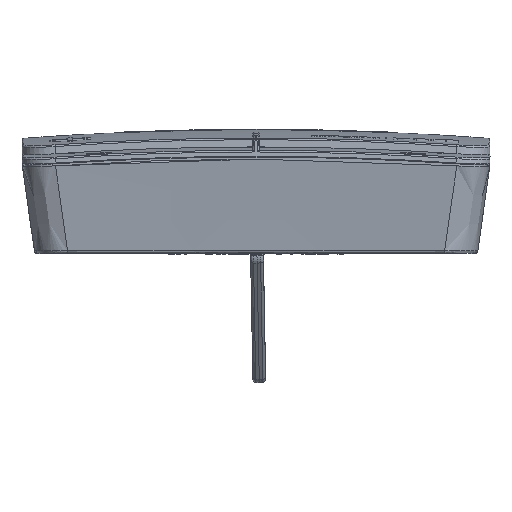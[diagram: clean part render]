
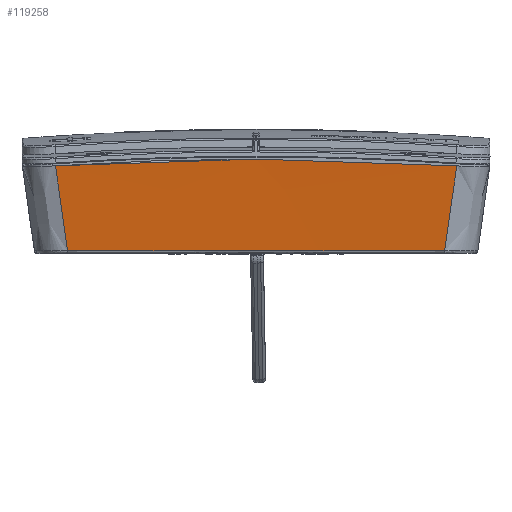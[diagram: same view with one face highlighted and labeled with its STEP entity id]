
A CAD part, top view. The second image highlights one B-rep face of the part: STEP entity #119258.
In plain terms, the highlighted free-form (B-spline) face has degree [3, 3] with [7, 4] control points.
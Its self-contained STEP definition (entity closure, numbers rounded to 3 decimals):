
#2927=B_SPLINE_SURFACE_WITH_KNOTS('',3,3,((#195990,#195991,#195992,#195993),
(#195994,#195995,#195996,#195997),(#195998,#195999,#196000,#196001),(#196002,
#196003,#196004,#196005),(#196006,#196007,#196008,#196009),(#196010,#196011,
#196012,#196013),(#196014,#196015,#196016,#196017)),.UNSPECIFIED.,.F.,.F.,
 .F.,(4,1,1,1,4),(4,4),(-149.915,-147.026,-146.062,
-145.099,-143.173),(0.13,1.724),
 .UNSPECIFIED.);
#7698=B_SPLINE_CURVE_WITH_KNOTS('',3,(#195986,#195987,#195988,#195989),
 .UNSPECIFIED.,.F.,.F.,(4,4),(-1.542,-0.052),
 .UNSPECIFIED.);
#7699=B_SPLINE_CURVE_WITH_KNOTS('',3,(#196019,#196020,#196021,#196022,#196023,
#196024,#196025,#196026,#196027,#196028,#196029,#196030),.UNSPECIFIED.,
 .F.,.F.,(4,2,2,2,2,4),(0.,1.728,3.454,
4.317,5.612,6.908),.UNSPECIFIED.);
#7700=B_SPLINE_CURVE_WITH_KNOTS('',3,(#196031,#196032,#196033,#196034),
 .UNSPECIFIED.,.F.,.F.,(4,4),(0.052,1.542),
 .UNSPECIFIED.);
#10400=FACE_OUTER_BOUND('',#17086,.T.);
#17086=EDGE_LOOP('',(#86978,#86979,#86980,#86981));
#47165=CIRCLE('',#126565,3638.657);
#52139=VERTEX_POINT('',#193895);
#52140=VERTEX_POINT('',#193923);
#52269=VERTEX_POINT('',#195984);
#52270=VERTEX_POINT('',#196018);
#65170=EDGE_CURVE('',#52139,#52140,#47165,.T.);
#65398=EDGE_CURVE('',#52269,#52139,#7698,.T.);
#65399=EDGE_CURVE('',#52269,#52270,#7699,.T.);
#65400=EDGE_CURVE('',#52140,#52270,#7700,.T.);
#86978=ORIENTED_EDGE('',*,*,#65170,.F.);
#86979=ORIENTED_EDGE('',*,*,#65398,.F.);
#86980=ORIENTED_EDGE('',*,*,#65399,.T.);
#86981=ORIENTED_EDGE('',*,*,#65400,.F.);
#119258=ADVANCED_FACE('',(#10400),#2927,.T.);
#126565=AXIS2_PLACEMENT_3D('',#193924,#139203,#139204);
#139203=DIRECTION('center_axis',(0.,1.,
0.));
#139204=DIRECTION('ref_axis',(-0.009,0.,
-1.));
#193895=CARTESIAN_POINT('',(-2.113,-8.57,-2.225));
#193923=CARTESIAN_POINT('',(-67.087,-8.57,-2.225));
#193924=CARTESIAN_POINT('Origin',(-34.6,-8.5,3636.287));
#195984=CARTESIAN_POINT('',(-0.044,6.041,-0.152));
#195986=CARTESIAN_POINT('Ctrl Pts',(-0.044,6.041,-0.152));
#195987=CARTESIAN_POINT('Ctrl Pts',(-0.734,1.171,
-0.843));
#195988=CARTESIAN_POINT('Ctrl Pts',(-1.423,-3.699,
-1.534));
#195989=CARTESIAN_POINT('Ctrl Pts',(-2.113,-8.57,
-2.225));
#195990=CARTESIAN_POINT('Ctrl Pts',(-0.044,6.044,
-0.152));
#195991=CARTESIAN_POINT('Ctrl Pts',(-0.044,0.782,
-0.891));
#195992=CARTESIAN_POINT('Ctrl Pts',(-0.044,-4.48,
-1.631));
#195993=CARTESIAN_POINT('Ctrl Pts',(-0.044,-9.741,
-2.37));
#195994=CARTESIAN_POINT('Ctrl Pts',(-10.118,6.725,
-0.152));
#195995=CARTESIAN_POINT('Ctrl Pts',(-10.118,1.464,-0.891));
#195996=CARTESIAN_POINT('Ctrl Pts',(-10.118,-3.798,
-1.631));
#195997=CARTESIAN_POINT('Ctrl Pts',(-10.118,-9.059,
-2.37));
#195998=CARTESIAN_POINT('Ctrl Pts',(-23.379,7.214,
-0.152));
#195999=CARTESIAN_POINT('Ctrl Pts',(-23.379,1.952,
-0.891));
#196000=CARTESIAN_POINT('Ctrl Pts',(-23.379,-3.309,
-1.631));
#196001=CARTESIAN_POINT('Ctrl Pts',(-23.379,-8.571,
-2.37));
#196002=CARTESIAN_POINT('Ctrl Pts',(-39.406,7.213,
-0.152));
#196003=CARTESIAN_POINT('Ctrl Pts',(-39.406,1.951,
-0.891));
#196004=CARTESIAN_POINT('Ctrl Pts',(-39.406,-3.31,
-1.631));
#196005=CARTESIAN_POINT('Ctrl Pts',(-39.406,-8.572,
-2.37));
#196006=CARTESIAN_POINT('Ctrl Pts',(-52.459,6.971,
-0.152));
#196007=CARTESIAN_POINT('Ctrl Pts',(-52.459,1.709,
-0.891));
#196008=CARTESIAN_POINT('Ctrl Pts',(-52.459,-3.553,
-1.631));
#196009=CARTESIAN_POINT('Ctrl Pts',(-52.459,-8.814,
-2.37));
#196010=CARTESIAN_POINT('Ctrl Pts',(-62.44,6.498,
-0.152));
#196011=CARTESIAN_POINT('Ctrl Pts',(-62.44,1.236,
-0.891));
#196012=CARTESIAN_POINT('Ctrl Pts',(-62.44,-4.025,
-1.631));
#196013=CARTESIAN_POINT('Ctrl Pts',(-62.44,-9.287,
-2.37));
#196014=CARTESIAN_POINT('Ctrl Pts',(-69.157,6.044,
-0.152));
#196015=CARTESIAN_POINT('Ctrl Pts',(-69.157,0.782,
-0.891));
#196016=CARTESIAN_POINT('Ctrl Pts',(-69.157,-4.48,
-1.631));
#196017=CARTESIAN_POINT('Ctrl Pts',(-69.157,-9.741,
-2.37));
#196018=CARTESIAN_POINT('',(-69.157,6.044,-0.152));
#196019=CARTESIAN_POINT('Ctrl Pts',(-0.044,6.041,
-0.152));
#196020=CARTESIAN_POINT('Ctrl Pts',(-5.791,6.431,
-0.152));
#196021=CARTESIAN_POINT('Ctrl Pts',(-11.548,6.721,
-0.152));
#196022=CARTESIAN_POINT('Ctrl Pts',(-23.056,7.108,
-0.152));
#196023=CARTESIAN_POINT('Ctrl Pts',(-28.812,7.204,
-0.152));
#196024=CARTESIAN_POINT('Ctrl Pts',(-37.442,7.205,
-0.152));
#196025=CARTESIAN_POINT('Ctrl Pts',(-40.328,7.181,
-0.152));
#196026=CARTESIAN_POINT('Ctrl Pts',(-47.536,7.062,
-0.152));
#196027=CARTESIAN_POINT('Ctrl Pts',(-51.862,6.935,-0.152));
#196028=CARTESIAN_POINT('Ctrl Pts',(-60.512,6.572,
-0.152));
#196029=CARTESIAN_POINT('Ctrl Pts',(-64.837,6.336,-0.152));
#196030=CARTESIAN_POINT('Ctrl Pts',(-69.157,6.044,
-0.152));
#196031=CARTESIAN_POINT('Ctrl Pts',(-67.087,-8.57,
-2.225));
#196032=CARTESIAN_POINT('Ctrl Pts',(-67.777,-3.698,
-1.534));
#196033=CARTESIAN_POINT('Ctrl Pts',(-68.467,1.173,-0.843));
#196034=CARTESIAN_POINT('Ctrl Pts',(-69.157,6.044,
-0.152));
